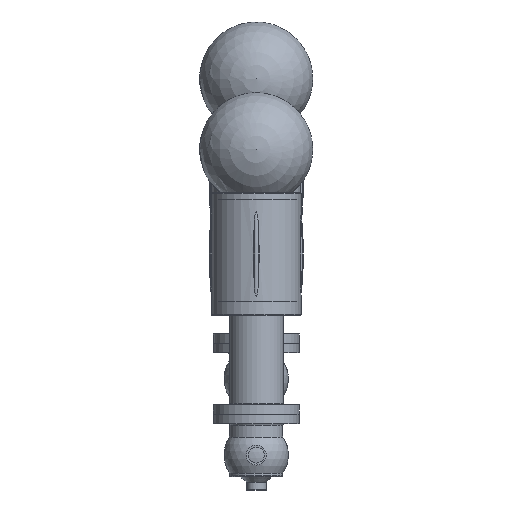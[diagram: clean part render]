
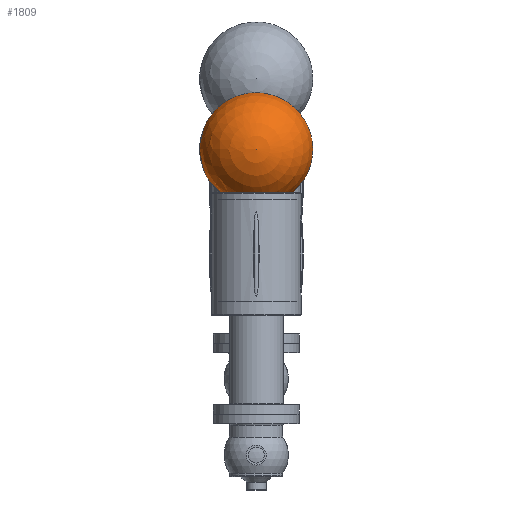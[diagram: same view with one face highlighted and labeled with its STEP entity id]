
A CAD part, front view. The second image highlights one B-rep face of the part: STEP entity #1809.
In plain terms, the highlighted spherical face has radius 72.5 mm.
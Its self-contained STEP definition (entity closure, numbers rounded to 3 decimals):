
#216=SPHERICAL_SURFACE('',#2183,72.5);
#240=FACE_BOUND('',#484,.T.);
#357=FACE_OUTER_BOUND('',#483,.T.);
#483=EDGE_LOOP('',(#1553,#1554));
#484=EDGE_LOOP('',(#1555));
#724=CIRCLE('',#2184,72.5);
#725=CIRCLE('',#2185,46.648);
#911=VERTEX_POINT('',#3647);
#912=VERTEX_POINT('',#3648);
#913=VERTEX_POINT('',#3650);
#1137=EDGE_CURVE('',#911,#912,#724,.T.);
#1138=EDGE_CURVE('',#913,#913,#725,.T.);
#1553=ORIENTED_EDGE('',*,*,#1137,.T.);
#1554=ORIENTED_EDGE('',*,*,#1137,.F.);
#1555=ORIENTED_EDGE('',*,*,#1138,.F.);
#1809=ADVANCED_FACE('',(#357,#240),#216,.T.);
#2183=AXIS2_PLACEMENT_3D('',#3646,#2716,#2717);
#2184=AXIS2_PLACEMENT_3D('',#3649,#2718,#2719);
#2185=AXIS2_PLACEMENT_3D('',#3651,#2720,#2721);
#2716=DIRECTION('center_axis',(0.,0.,1.));
#2717=DIRECTION('ref_axis',(1.,0.,0.));
#2718=DIRECTION('center_axis',(0.,-1.,0.));
#2719=DIRECTION('ref_axis',(-1.,0.,0.));
#2720=DIRECTION('center_axis',(0.,-1.,0.));
#2721=DIRECTION('ref_axis',(1.,0.,0.));
#3646=CARTESIAN_POINT('Origin',(150.,266.5,0.));
#3647=CARTESIAN_POINT('',(150.,266.5,72.5));
#3648=CARTESIAN_POINT('',(150.,266.5,-72.5));
#3649=CARTESIAN_POINT('Origin',(150.,266.5,0.));
#3650=CARTESIAN_POINT('',(196.648,211.,0.));
#3651=CARTESIAN_POINT('Origin',(150.,211.,0.));
